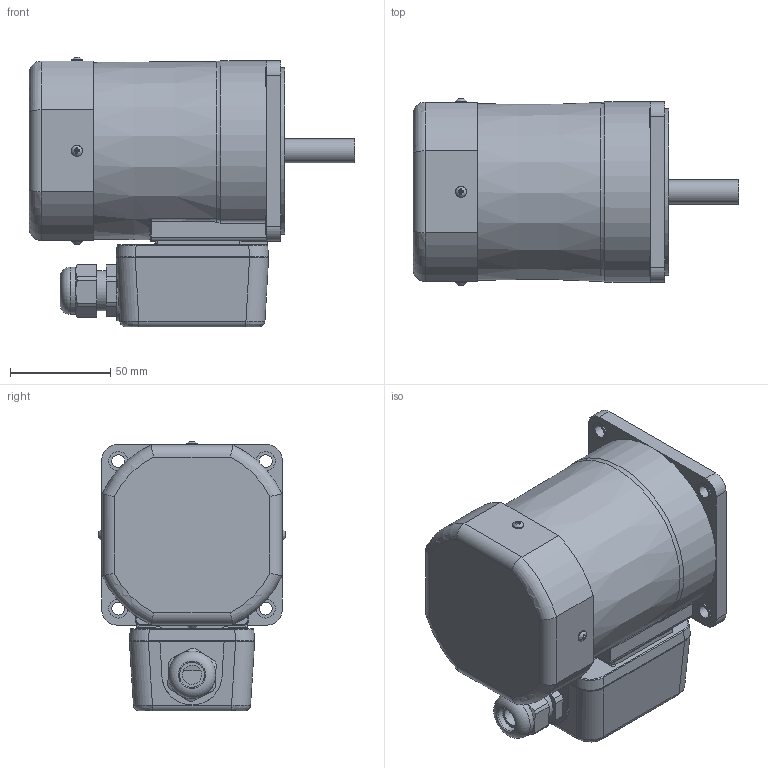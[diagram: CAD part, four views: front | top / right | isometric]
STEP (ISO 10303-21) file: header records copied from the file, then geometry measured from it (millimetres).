
FILE_DESCRIPTION((''),'2;1');
FILE_NAME('D:\STP파일\60W MOTOR\T BOX TYPE\S9I60S-T.stp','2013-05-20T18:13:51',('leebh'),(''),'Autodesk Inventor 2011','Autodesk Inventor 2011','');
FILE_SCHEMA(('AUTOMOTIVE_DESIGN { 1 0 10303 214 1 1 1 1 }'));
Length unit declared in the file: millimetre
Products named in the file (1): 부품1
Bounding box: 162.41 x 93.49 x 134.55 mm (x, y, z)
Volume: 1019373.3 mm3; surface area: 79926.9 mm2
Topology: 1 solids, 13 shells, 475 faces, 1164 edges, 740 vertices
Faces by surface type: plane 254, cylinder 127, bspline 53, torus 33, cone 8
Full cylindrical faces by diameter (mm): 2.55 x2, 3 x4, 3.5 x4, 5.6 x8, 6.3 x4, 6.5 x4, 9.5 x4, 12 x1, 12.5 x1, 15 x1, 20 x2, 21 x1, 23.6 x1, 40 x1, 83 x1
Entity records: 15897 total; most frequent: CARTESIAN_POINT 4956, ORIENTED_EDGE 2142, DIRECTION 2061, EDGE_CURVE 1071, AXIS2_PLACEMENT_3D 744, VERTEX_POINT 723, EDGE_LOOP 592, VECTOR 573
